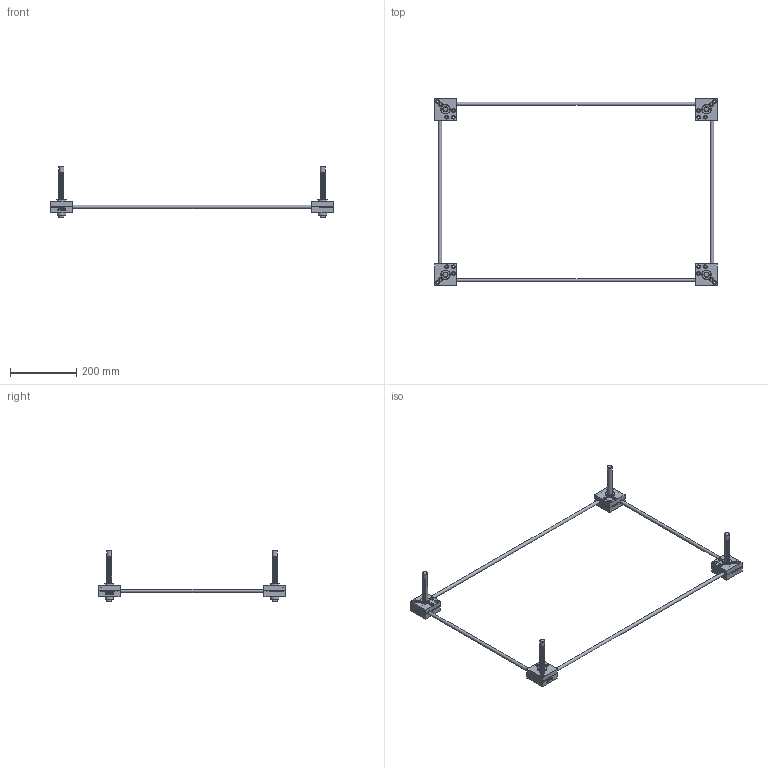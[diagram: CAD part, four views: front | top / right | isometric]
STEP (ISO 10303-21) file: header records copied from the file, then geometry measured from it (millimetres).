
FILE_DESCRIPTION(('STEP AP203'),'1');
FILE_NAME('SP100U-500x500-100ST.stp','2022-06-15T01:15:05',(' '),(' '),'Spatial InterOp 3D',' ',' ');
FILE_SCHEMA(('CONFIG_CONTROL_DESIGN'));
Length unit declared in the file: millimetre
Products named in the file (52): ____61; ASSEM1; Shaft.2; Shaft.1; Body.4-Part; Bolt; Gear Box.4(Upper); Gear Box.4(Lower); RJ05-4SCJ-610X600-100ST_CAP; LABEL-B.1; ___; LOGO; 파트18; Body.3-Part; Gear Box.3(Upper); Gear Box.3(Lower); LOGO 3; Body.2-Part; Gear Box.2(Upper); Gear Box.2(Lower); LOGO 2; Body.1-Part; Gear Box.1(Upper); Gear Box.1(Lower); SP100U-500X500-100ST
Assembly tree (53 placements, depth 7):
  SP100U-500X500-100ST
    ____61
      ASSEM1
      (unnamed)
      (unnamed)
      (unnamed)
      Shaft.2  x2
      Shaft.1  x2
      Body.4-Part
        Bolt
        Bolt
        Bolt
        Gear Box.4(Upper)
        Gear Box.4(Lower)
        LOGO
          ___
            RJ05-4SCJ-610X600-100ST_CAP
              LABEL-B.1
          파트18
      Body.3-Part
        Bolt
        Bolt
        Bolt
        Gear Box.3(Upper)
        Gear Box.3(Lower)
        LOGO 3
          ___
            RJ05-4SCJ-610X600-100ST_CAP
              LABEL-B.1
          파트18
      Body.2-Part
        Bolt
        Bolt
        Bolt
        Gear Box.2(Upper)
        Gear Box.2(Lower)
        LOGO 2
          ___
            RJ05-4SCJ-610X600-100ST_CAP
              LABEL-B.1
          파트18
      Body.1-Part
        Bolt
        Bolt
        Bolt
        Gear Box.1(Upper)
        Gear Box.1(Lower)
        LOGO
          ___
            RJ05-4SCJ-610X600-100ST_CAP
              LABEL-B.1
          파트18
Bounding box: 854.24 x 565.24 x 154 mm (x, y, z)
Volume: 643258.9 mm3; surface area: 283668.1 mm2
Topology: 52 solids, 52 shells, 7556 faces, 21596 edges, 14368 vertices
Faces by surface type: plane 7212, cylinder 260, cone 64, torus 20
Full cylindrical faces by diameter (mm): 5 x24, 6 x4, 6.4 x28, 10 x4, 11 x32, 15 x4, 15.4 x8, 17 x8, 25 x4, 28 x4
Entity records: 241184 total; most frequent: CARTESIAN_POINT 43221, ORIENTED_EDGE 41888, DIRECTION 37390, EDGE_CURVE 20944, LINE 19636, VECTOR 19636, VERTEX_POINT 14056, AXIS2_PLACEMENT_3D 8877
